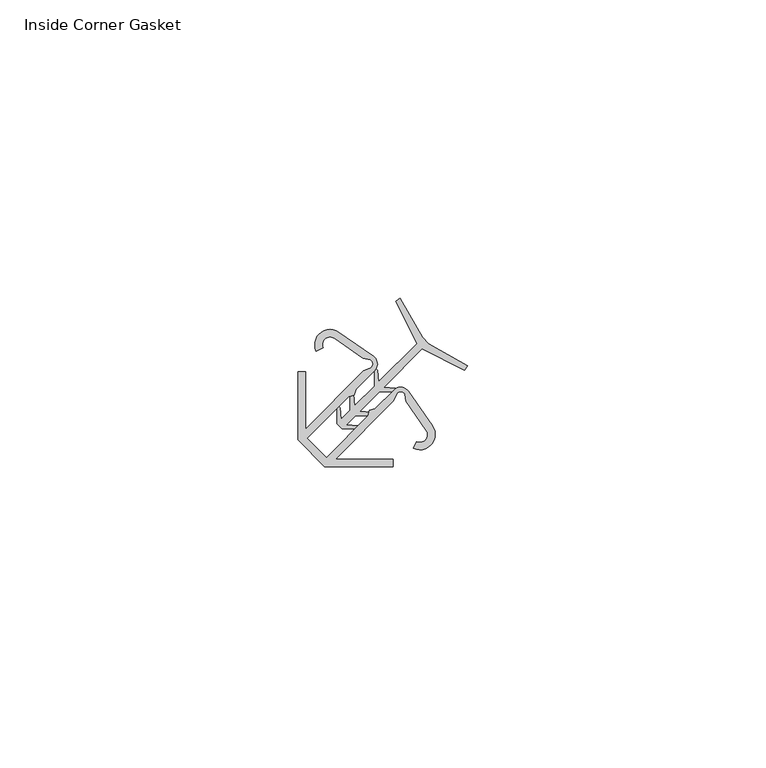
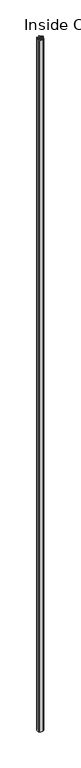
"""IFC4 building model written with IfcOpenShell, lengths in millimetres: furniture geometry, Accessories-Teknion-FHGN-AI_Healthcare-Inside_Corner_Gasket-R2021 : Inside Corner Gasket."""

import ifcopenshell
import ifcopenshell.guid

model = None  # the IFC model being written
_history = None  # IfcOwnerHistory: only IFC2X3 demands one
_inside = {}  # id of a spatial element -> (the spatial element, [elements in it])
_under = {}  # id of a project, library or spatial element -> (it, [spatial elements below it])
_declared = {}  # id of a project -> (the project, [libraries it declares])
_typed = {}  # id of a type object -> (the type object, [elements of that type])
_made_of = {}  # id of a material, layer set ... -> (it, [elements and type objects made of it])


def new_model(schema):
    """Start an empty IFC model of exactly this schema.

    Asked for "IFC4X3", IfcOpenShell would pick the latest addendum, in which some entities
    have other attributes; the version numbers below select the first issue.
    IFC2X3 requires an IfcOwnerHistory on every rooted entity: one is made here for all.
    """
    global model, _history
    if schema == "IFC4X3":
        model = ifcopenshell.file(schema_version=(4, 3, 0, 0))
    else:
        model = ifcopenshell.file(schema=schema)
    _inside.clear()
    _under.clear()
    _declared.clear()
    _typed.clear()
    _made_of.clear()
    _history = None
    if model.schema == "IFC2X3":
        org = make("IfcOrganization", Name="unknown")
        user = make(
            "IfcPersonAndOrganization",
            ThePerson=make("IfcPerson", FamilyName="unknown"),
            TheOrganization=org,
        )
        app = make(
            "IfcApplication",
            ApplicationDeveloper=org,
            Version="unknown",
            ApplicationFullName="unknown",
            ApplicationIdentifier="unknown",
        )
        _history = make(
            "IfcOwnerHistory",
            OwningUser=user,
            OwningApplication=app,
            ChangeAction="ADDED",
            CreationDate=0,
        )
    return model


def make(cls, **values):
    """One entity of the class cls with the attributes given. An attribute that is None is left unset."""
    return model.create_entity(
        cls, **{name: value for name, value in values.items() if value is not None}
    )


def rooted(cls, **values):
    """An entity with a GlobalId (a new one), such as an element, a storey or a relation."""
    return make(cls, GlobalId=ifcopenshell.guid.new(), OwnerHistory=_history, **values)


def si_unit(unit_type, name, prefix=None):
    """IfcSIUnit, for example si_unit("LENGTHUNIT", "METRE", prefix="MILLI")."""
    return make("IfcSIUnit", UnitType=unit_type, Prefix=prefix, Name=name)


def assignment(units):
    """IfcUnitAssignment: the units of a project."""
    return None if units is None else make("IfcUnitAssignment", Units=units)


def point(xyz):
    """IfcCartesianPoint."""
    return None if xyz is None else make("IfcCartesianPoint", Coordinates=xyz)


def direction(xyz):
    """IfcDirection."""
    return None if xyz is None else make("IfcDirection", DirectionRatios=xyz)


def frame(location, z_axis=None, x_axis=None):
    """IfcAxis2Placement3D, a coordinate frame: its origin and axes. An axis left out is left unset."""
    return make(
        "IfcAxis2Placement3D",
        Location=point(location),
        Axis=direction(z_axis),
        RefDirection=direction(x_axis),
    )


def frame_2d(location, x_axis=None):
    """IfcAxis2Placement2D, a coordinate frame in the plane: its origin and x axis."""
    return make(
        "IfcAxis2Placement2D", Location=point(location), RefDirection=direction(x_axis)
    )


def origin():
    """The frame at (0, 0, 0) with its axes left unset."""
    return frame((0.0, 0.0, 0.0))


def origin_with_axes():
    """The frame at (0, 0, 0) with the z axis (0, 0, 1) and the x axis (1, 0, 0) written out."""
    return frame((0.0, 0.0, 0.0), z_axis=(0.0, 0.0, 1.0), x_axis=(1.0, 0.0, 0.0))


def place(relative_to, where):
    """IfcLocalPlacement: puts the frame where relative to a parent placement (None: the world)."""
    return make(
        "IfcLocalPlacement", PlacementRelTo=relative_to, RelativePlacement=where
    )


def context(
    kind, dimensions, precision=None, world=None, true_north=None, identifier=None
):
    """IfcGeometricRepresentationContext, for example the 3D "Model" context."""
    return make(
        "IfcGeometricRepresentationContext",
        ContextIdentifier=identifier,
        ContextType=kind,
        CoordinateSpaceDimension=dimensions,
        Precision=precision,
        WorldCoordinateSystem=world,
        TrueNorth=true_north,
    )


def project(units=None, contexts=None):
    """IfcProject with its units and contexts."""
    return rooted(
        "IfcProject",
        Name="project",
        RepresentationContexts=contexts,
        UnitsInContext=assignment(units),
    )


def spatial(cls, under=None, at=None, **own):
    """A site, building, storey or space (cls), placed at a placement, below another one or the project."""
    s = rooted(cls, ObjectPlacement=at, **own)
    if under is not None:
        _under.setdefault(under.id(), (under, []))[1].append(s)
    return s


def polyline(points):
    """IfcPolyline through the points."""
    return make("IfcPolyline", Points=[point(p) for p in points])


def circle_curve(where, radius):
    """IfcCircle in the frame where."""
    return make("IfcCircle", Position=where, Radius=radius)


def trimmed(basis, trim1, trim2, sense, master):
    """IfcTrimmedCurve: the piece of a basis curve between two trims."""
    return make(
        "IfcTrimmedCurve",
        BasisCurve=basis,
        Trim1=trim1,
        Trim2=trim2,
        SenseAgreement=sense,
        MasterRepresentation=master,
    )


def segment(curve, same_sense, transition):
    """IfcCompositeCurveSegment."""
    return make(
        "IfcCompositeCurveSegment",
        Transition=transition,
        SameSense=same_sense,
        ParentCurve=curve,
    )


def composite_curve(segments, self_intersect=None):
    """IfcCompositeCurve: segments joined end to end."""
    return make("IfcCompositeCurve", Segments=segments, SelfIntersect=self_intersect)


def outline(outer, holes=None, kind="AREA"):
    """IfcArbitraryClosedProfileDef: a profile drawn as a closed curve; with holes, ...WithVoids."""
    if holes is None:
        return make("IfcArbitraryClosedProfileDef", ProfileType=kind, OuterCurve=outer)
    return make(
        "IfcArbitraryProfileDefWithVoids",
        ProfileType=kind,
        OuterCurve=outer,
        InnerCurves=holes,
    )


def extrude(swept, where, along, depth):
    """IfcExtrudedAreaSolid: the profile swept, set in the frame where, extruded along a direction by depth."""
    return make(
        "IfcExtrudedAreaSolid",
        SweptArea=swept,
        Position=where,
        ExtrudedDirection=direction(along),
        Depth=depth,
    )


def shape(context_of_items, identifier, shape_type, items):
    """IfcShapeRepresentation: the items that make up one representation, for example the "Body"."""
    return make(
        "IfcShapeRepresentation",
        ContextOfItems=context_of_items,
        RepresentationIdentifier=identifier,
        RepresentationType=shape_type,
        Items=items,
    )


def source(mapping_origin, context_of_items, identifier, shape_type, items):
    """IfcRepresentationMap: a shape defined once, which mapped items show again and again."""
    return make(
        "IfcRepresentationMap",
        MappingOrigin=mapping_origin,
        MappedRepresentation=shape(context_of_items, identifier, shape_type, items),
    )


def transform(
    local_origin,
    x_axis=None,
    y_axis=None,
    z_axis=None,
    scale=None,
    scale2=None,
    scale3=None,
    uniform=True,
):
    """IfcCartesianTransformationOperator3D, or its non-uniform kind. x_axis, y_axis, z_axis: its Axis1, 2, 3."""
    if uniform:
        return make(
            "IfcCartesianTransformationOperator3D",
            Axis1=direction(x_axis),
            Axis2=direction(y_axis),
            LocalOrigin=point(local_origin),
            Scale=scale,
            Axis3=direction(z_axis),
        )
    return make(
        "IfcCartesianTransformationOperator3DnonUniform",
        Axis1=direction(x_axis),
        Axis2=direction(y_axis),
        LocalOrigin=point(local_origin),
        Scale=scale,
        Axis3=direction(z_axis),
        Scale2=scale2,
        Scale3=scale3,
    )


def mapped(mapping_source, mapping_target):
    """IfcMappedItem: shows the shape of a source again, moved by a transform."""
    return make(
        "IfcMappedItem", MappingSource=mapping_source, MappingTarget=mapping_target
    )


def made_of(thing, what):
    """Note that an element or type object is made of a material, layer set ...; save() writes the relation."""
    if what is not None:
        _made_of.setdefault(what.id(), (what, []))[1].append(thing)
    return thing


def element(
    cls,
    number,
    at=None,
    inside=None,
    cuts=None,
    type_object=None,
    material=None,
    context=None,
    identifier="Body",
    shape_type=None,
    held_by="IfcProductDefinitionShape",
    body=None,
    shapes=None,
    **own,
):
    """One element of the class cls, such as IfcWall. Its Tag is "e" and its number.

    at: its placement. inside: the storey or other place that contains it. cuts: it is an
    opening in that element (IfcRelVoidsElement). A single representation is given by context,
    identifier, shape_type and body (its items); several are given by shapes. held_by: the class
    of the entity that holds the representations. save() writes the other relations.
    """
    e = rooted(cls, Tag="e%d" % number, ObjectPlacement=at, **own)
    if body is not None:
        shapes = [shape(context, identifier, shape_type, body)]
    if shapes is not None:
        e.Representation = make(held_by, Representations=shapes)
    if inside is not None:
        _inside.setdefault(inside.id(), (inside, []))[1].append(e)
    if cuts is not None:
        rooted(
            "IfcRelVoidsElement", RelatingBuildingElement=cuts, RelatedOpeningElement=e
        )
    if type_object is not None:
        _typed.setdefault(type_object.id(), (type_object, []))[1].append(e)
    return made_of(e, material)


def aggregate(whole, parts):
    """IfcRelAggregates: a whole, such as a stair, and the parts it consists of."""
    return rooted("IfcRelAggregates", RelatingObject=whole, RelatedObjects=parts)


def save(model, path):
    """Write the relations noted so far, then the file.

    IfcRelAggregates (storeys below a building ...), IfcRelContainedInSpatialStructure (elements
    in a storey), IfcRelDefinesByType, IfcRelAssociatesMaterial and IfcRelDeclares: one each for
    every whole, place, type object, material and project.
    """
    for whole, parts in _under.values():
        aggregate(whole, parts)
    for where, things in _inside.values():
        rooted(
            "IfcRelContainedInSpatialStructure",
            RelatedElements=things,
            RelatingStructure=where,
        )
    for kind, things in _typed.values():
        rooted("IfcRelDefinesByType", RelatedObjects=things, RelatingType=kind)
    for what, things in _made_of.values():
        rooted("IfcRelAssociatesMaterial", RelatedObjects=things, RelatingMaterial=what)
    for by, libraries in _declared.values():
        rooted("IfcRelDeclares", RelatingContext=by, RelatedDefinitions=libraries)
    model.write(path)


def inside_corner_gasket_3f839031(model_context):
    return source(origin(), model_context, "Body", "SweptSolid", [
        extrude(outline(composite_curve([segment(polyline([(-2.7813781, -15.4541762), (-2.7813781, -4.0239283), (-1.5113782, -4.0239283), (-1.5113782, -13.6453604), (8.2532338, -3.8807487), (9.4950652, -3.3536226)]), True, "CONTINUOUS"), segment(trimmed(circle_curve(frame_2d((8.9586546, -2.7247865)), 0.8265416), [point((9.4950652, -3.3536226))], [point((9.3777197, -2.0123572))], True, "CARTESIAN"), True, "CONTINUOUS"), segment(polyline([(9.3777197, -2.0123572), (8.1811366, -1.7956614), (3.3422244, 1.5764027)]), True, "CONTINUOUS"), segment(trimmed(circle_curve(frame_2d((2.605527, 0.519242)), 1.2885309), [point((3.3422244, 1.5764027))], [point((1.4311468, -0.0109873))], True, "CARTESIAN"), True, "CONTINUOUS"), segment(polyline([(1.4311468, -0.0109873), (0.2945858, -0.5409744)]), True, "CONTINUOUS"), segment(trimmed(circle_curve(frame_2d((2.6104362, 0.5262883)), 2.5499436), [point((0.2945858, -0.5409744))], [point((4.0683267, 2.6183609))], False, "CARTESIAN"), True, "CONTINUOUS"), segment(polyline([(4.0683267, 2.6183609), (9.8673678, -1.4227834)]), True, "CONTINUOUS"), segment(trimmed(circle_curve(frame_2d((8.9597374, -2.7252327)), 1.5875034), [point((9.8673678, -1.4227834))], [point((10.0797468, -3.8502866))], False, "CARTESIAN"), True, "CONTINUOUS"), segment(polyline([(10.0797468, -3.8502866), (6.9413606, -6.9886731), (6.6631454, -7.9612462), (5.7498647, -8.1801689), (-1.2547345, -15.1847687), (1.9781572, -18.4176604), (8.982757, -11.4130612), (9.2016797, -10.4997805), (10.1742528, -10.2215653), (13.3126393, -7.0831791)]), True, "CONTINUOUS"), segment(trimmed(circle_curve(frame_2d((14.4376932, -8.2031884)), 1.5875034), [point((13.3126393, -7.0831791))], [point((15.7401425, -7.2955581))], False, "CARTESIAN"), True, "CONTINUOUS"), segment(polyline([(15.7401425, -7.2955581), (19.7812868, -13.0945992)]), True, "CONTINUOUS"), segment(trimmed(circle_curve(frame_2d((17.6892142, -14.5524897)), 2.5499436), [point((19.7812868, -13.0945992))], [point((16.6219515, -16.8683401))], False, "CARTESIAN"), True, "CONTINUOUS"), segment(polyline([(16.6219515, -16.8683401), (17.1519386, -15.7317791)]), True, "CONTINUOUS"), segment(trimmed(circle_curve(frame_2d((17.6821679, -14.5573989)), 1.2885309), [point((17.1519386, -15.7317791))], [point((18.7393286, -13.8207015))], True, "CARTESIAN"), True, "CONTINUOUS"), segment(polyline([(18.7393286, -13.8207015), (15.3672645, -8.9817893), (15.1505687, -7.7852062)]), True, "CONTINUOUS"), segment(trimmed(circle_curve(frame_2d((14.4381394, -8.2042713)), 0.8265416), [point((15.1505687, -7.7852062))], [point((13.8093033, -7.6678607))], True, "CARTESIAN"), True, "CONTINUOUS"), segment(polyline([(13.8093033, -7.6678607), (13.2821772, -8.9096921), (3.5175655, -18.6743041), (13.1389976, -18.6743041), (13.1389976, -19.944304), (1.7087497, -19.944304), (-2.7813781, -15.4541762)]), True, "CONTINUOUS")], self_intersect=False)), origin_with_axes(), (0.0, 0.0, 1.0), 3048.0),
        extrude(outline(polyline([(3.7498336, -12.720021), (3.7498432, -9.4537778), (4.2766357, -10.03884), (4.4686453, -12.0055898), (5.9943933, -10.4798418), (5.994403, -7.2157621), (6.5250502, -7.8051055), (6.7157541, -9.7584809), (10.0339658, -6.4402692), (10.0339754, -3.2009944), (10.5681003, -3.7942001), (10.7559451, -5.7182898), (17.1741615, 0.6999266), (13.6364838, 7.8059271), (14.3274688, 8.3266217), (18.0778556, 1.7499511), (19.1178122, 0.7099945), (25.6944827, -3.0403922), (25.1737882, -3.7313772), (18.0677877, -0.1936996), (11.6495713, -6.611916), (13.573661, -6.7997608), (14.1668667, -7.3338856), (10.9275919, -7.3338952), (7.6093801, -10.6521069), (9.5627556, -10.8428109), (10.152099, -11.373458), (6.8880193, -11.3734677), (5.3622712, -12.8992157), (7.329021, -13.0912254), (7.9140833, -13.6180178), (4.6478395, -13.6180275), (3.7498336, -12.720021)])), origin_with_axes(), (0.0, 0.0, 1.0), 3048.0),
    ])


if __name__ == "__main__":
    model = new_model("IFC4")
    model_context = context("Model", 3, world=origin())
    ifc_project = project(units=[si_unit("LENGTHUNIT", "METRE", prefix="MILLI")], contexts=[model_context])
    site = spatial("IfcSite", under=ifc_project)
    building = spatial("IfcBuilding", under=site)
    placement = place(None, origin())
    inside_corner_gasket_shape = inside_corner_gasket_3f839031(model_context)
    element("IfcFurniture", 1, ObjectType="Accessories-Teknion-FHGN-AI_Healthcare-Inside_Corner_Gasket-R2021 : Inside Corner Gasket", at=placement, inside=building, context=model_context, shape_type="MappedRepresentation", body=[
        mapped(inside_corner_gasket_shape, transform((0.0, 0.0, 0.0), x_axis=(1.0, 0.0, 0.0), y_axis=(0.0, 1.0, 0.0), z_axis=(0.0, 0.0, 1.0))),
    ])
    save(model, "model.ifc")
